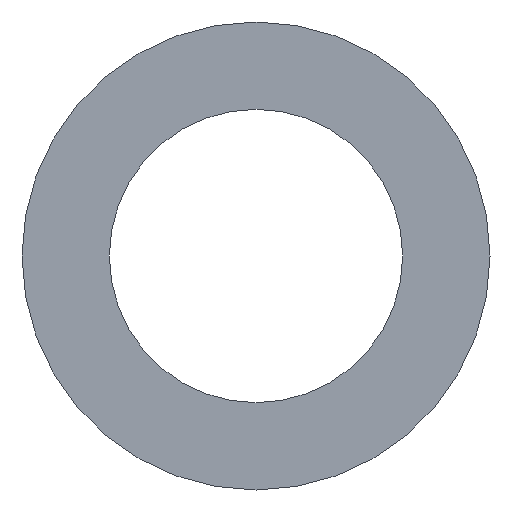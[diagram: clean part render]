
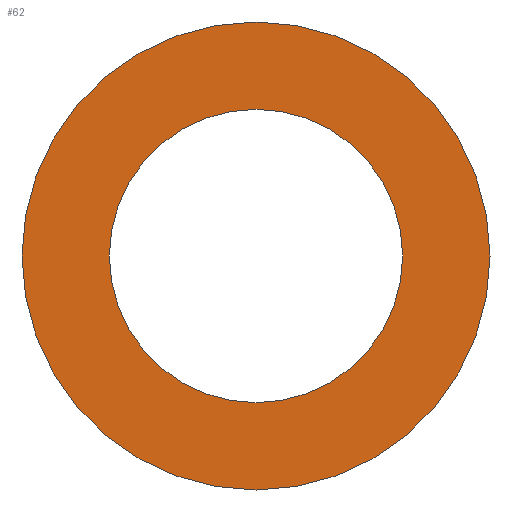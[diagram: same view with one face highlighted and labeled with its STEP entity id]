
A CAD part, front view. The second image highlights one B-rep face of the part: STEP entity #62.
In plain terms, the highlighted planar face has unit normal (0, -1, 0).
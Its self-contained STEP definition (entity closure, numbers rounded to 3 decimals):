
#20=PLANE('',#83);
#26=ORIENTED_EDGE('',*,*,#30,.T.);
#27=ORIENTED_EDGE('',*,*,#32,.F.);
#30=EDGE_CURVE('',#34,#34,#38,.T.);
#32=EDGE_CURVE('',#36,#36,#40,.T.);
#34=VERTEX_POINT('',#106);
#36=VERTEX_POINT('',#111);
#38=CIRCLE('',#78,230.);
#40=CIRCLE('',#81,367.);
#46=EDGE_LOOP('',(#26));
#47=EDGE_LOOP('',(#27));
#54=FACE_BOUND('',#46,.T.);
#55=FACE_BOUND('',#47,.T.);
#62=ADVANCED_FACE('',(#54,#55),#20,.F.);
#78=AXIS2_PLACEMENT_3D('',#105,#89,#90);
#81=AXIS2_PLACEMENT_3D('',#110,#95,#96);
#83=AXIS2_PLACEMENT_3D('',#114,#99,#100);
#89=DIRECTION('',(0.,1.,0.));
#90=DIRECTION('',(1.,0.,0.));
#95=DIRECTION('',(0.,1.,0.));
#96=DIRECTION('',(1.,0.,0.));
#99=DIRECTION('',(0.,1.,0.));
#100=DIRECTION('',(0.,0.,1.));
#105=CARTESIAN_POINT('',(0.,-1.5,0.));
#106=CARTESIAN_POINT('',(230.,-1.5,0.));
#110=CARTESIAN_POINT('',(0.,-1.5,0.));
#111=CARTESIAN_POINT('',(367.,-1.5,0.));
#114=CARTESIAN_POINT('',(0.,-1.5,0.));
